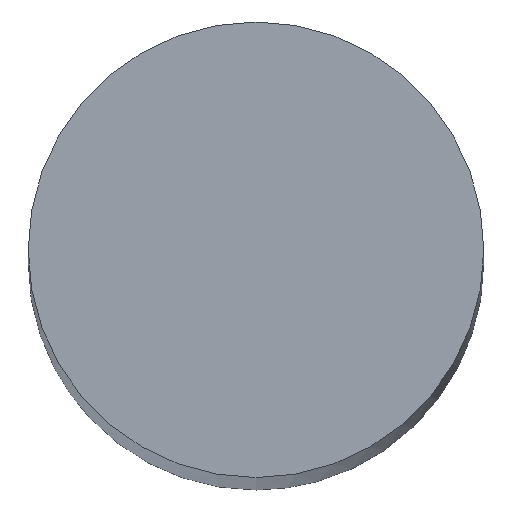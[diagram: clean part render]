
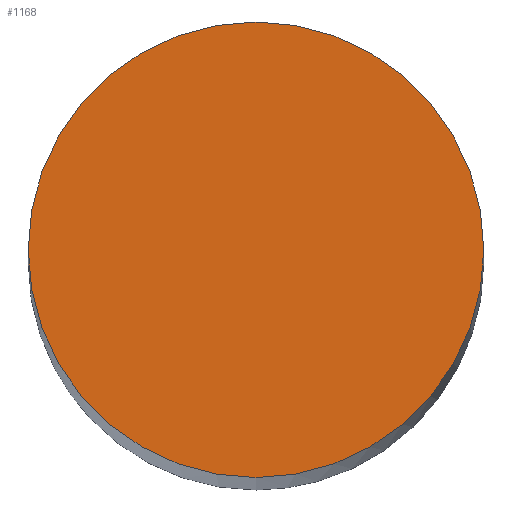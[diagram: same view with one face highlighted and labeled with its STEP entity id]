
A CAD part, top view. The second image highlights one B-rep face of the part: STEP entity #1168.
In plain terms, the highlighted planar face has unit normal (0, 0, 1).
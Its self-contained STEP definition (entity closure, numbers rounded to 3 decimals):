
#537 = VERTEX_POINT ( 'NONE', #1372 ) ;
#541 = VERTEX_POINT ( 'NONE', #1370 ) ;
#637 = CARTESIAN_POINT ( 'NONE',  ( 0., 0., 260. ) ) ;
#638 = DIRECTION ( 'NONE',  ( 0., 0., 1. ) ) ;
#639 = DIRECTION ( 'NONE',  ( -1., 0., 0. ) ) ;
#681 = FACE_OUTER_BOUND ( 'NONE', #1056, .T. ) ;
#981 = CIRCLE ( 'NONE', #1693, 7.5 ) ;
#1000 = ORIENTED_EDGE ( 'NONE', *, *, #1676, .T. ) ;
#1002 = ORIENTED_EDGE ( 'NONE', *, *, #1600, .T. ) ;
#1052 = CIRCLE ( 'NONE', #1745, 7.5 ) ;
#1056 = EDGE_LOOP ( 'NONE', ( #1002, #1000 ) ) ;
#1111 = DIRECTION ( 'NONE',  ( -1., 0., 0. ) ) ;
#1112 = DIRECTION ( 'NONE',  ( 0., 0., -1. ) ) ;
#1114 = PLANE ( 'NONE',  #1709 ) ;
#1115 = CARTESIAN_POINT ( 'NONE',  ( -15.125, 7.625, 260. ) ) ;
#1168 = ADVANCED_FACE ( 'NONE', ( #681 ), #1114, .F. ) ;
#1370 = CARTESIAN_POINT ( 'NONE',  ( -7.5, 0., 260. ) ) ;
#1372 = CARTESIAN_POINT ( 'NONE',  ( 7.5, 0., 260. ) ) ;
#1531 = DIRECTION ( 'NONE',  ( -1., 0., 0. ) ) ;
#1532 = DIRECTION ( 'NONE',  ( 0., 0., 1. ) ) ;
#1541 = CARTESIAN_POINT ( 'NONE',  ( 0., 0., 260. ) ) ;
#1600 = EDGE_CURVE ( 'NONE', #537, #541, #981, .T. ) ;
#1676 = EDGE_CURVE ( 'NONE', #541, #537, #1052, .T. ) ;
#1693 = AXIS2_PLACEMENT_3D ( 'NONE', #1541, #1532, #1531 ) ;
#1709 = AXIS2_PLACEMENT_3D ( 'NONE', #1115, #1112, #1111 ) ;
#1745 = AXIS2_PLACEMENT_3D ( 'NONE', #637, #638, #639 ) ;
